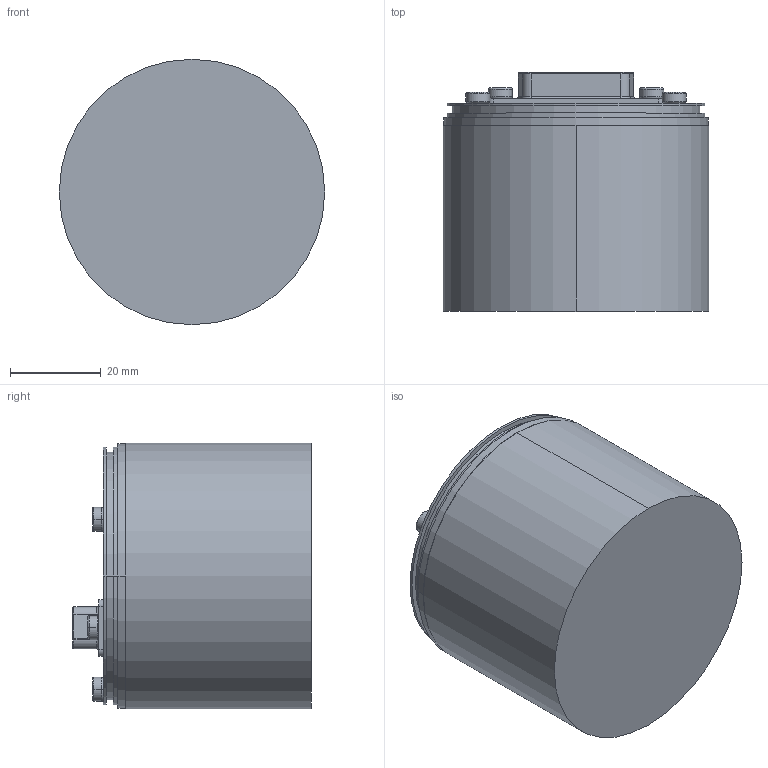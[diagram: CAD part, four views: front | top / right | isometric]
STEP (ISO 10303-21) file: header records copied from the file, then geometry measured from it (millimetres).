
FILE_DESCRIPTION (( 'STEP AP203' ), '1' );
FILE_NAME ('Drawing-OC-5-TC-430-SZM-HCCNNN-Y-HCC-N.STEP', '2013-11-20T12:56:43', ( 'Admin' ), ( 'Microsoft' ), 'SwSTEP 2.0', 'SolidWorks 2006104', '' );
FILE_SCHEMA (( 'CONFIG_CONTROL_DESIGN' ));
Length unit declared in the file: millimetre
Products named in the file (1): Drawing-OC-5-TC-430-SZM-HCCNNN-Y-HCC-N
Bounding box: 58.6 x 52.75 x 58.6 mm (x, y, z)
Volume: 25903.9 mm3; surface area: 31814.5 mm2
Topology: 8 solids, 8 shells, 610 faces, 1497 edges, 907 vertices
Faces by surface type: cylinder 215, cone 200, plane 94, torus 71, sphere 30
Entity records: 18630 total; most frequent: CARTESIAN_POINT 4085, DIRECTION 3379, ORIENTED_EDGE 2854, AXIS2_PLACEMENT_3D 1461, EDGE_CURVE 1427, VERTEX_POINT 877, CIRCLE 850, EDGE_LOOP 674
